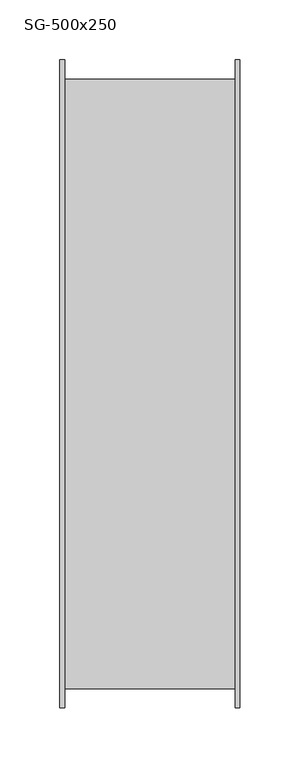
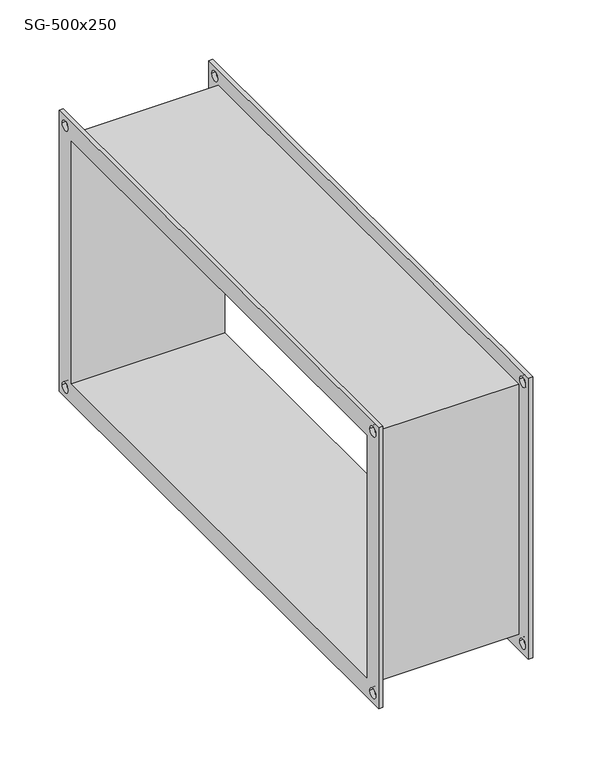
"""IFC4 building model written with IfcOpenShell, lengths in millimetres: damper geometry, СВ_ГибкаяВставка_КанальнаяПрямоугольная_200-1000_SG : SG-500x250."""

from ifc_helpers import new_model, si_unit, frame, origin, place, context, project, spatial, polyline, circle_curve, source, transform, mapped, element, save
from ifc_brep_helpers import plane_surface, revolved_surface, advanced_brep


def sg_500x250_38d528e1(model_context):
    return source(origin(), model_context, "Body", "AdvancedBrep", [
        advanced_brep(
        [(71.0, -254.0, 129.0), (-71.0, -254.0, 129.0), (-71.0, -254.0, -129.0), (71.0, -254.0, -129.0), (-71.0, 254.0, -129.0), (71.0, 254.0, -129.0), (-71.0, 254.0, 129.0), (71.0, 254.0, 129.0), (-75.0, -270.0, 145.0), (-75.0, 270.0, 145.0), (-75.0, 270.0, -145.0), (-75.0, -270.0, -145.0), (-75.0, -250.0, 125.0), (-75.0, -250.0, -125.0), (-75.0, 250.0, -125.0), (-75.0, 250.0, 125.0), (-75.0, 255.0, 135.0), (-75.0, 265.0, 135.0), (-75.0, 255.0, -135.0), (-75.0, 265.0, -135.0), (-75.0, -265.0, 135.0), (-75.0, -255.0, 135.0), (-75.0, -265.0, -135.0), (-75.0, -255.0, -135.0), (-71.0, -270.0, 145.0), (-71.0, -270.0, -145.0), (-71.0, 270.0, -145.0), (-71.0, 270.0, 145.0), (-71.0, 265.0, 135.0), (-71.0, 255.0, 135.0), (-71.0, 265.0, -135.0), (-71.0, 255.0, -135.0), (-71.0, -255.0, 135.0), (-71.0, -265.0, 135.0), (-71.0, -255.0, -135.0), (-71.0, -265.0, -135.0), (71.0, 270.0, 145.0), (71.0, 270.0, -145.0), (71.0, -270.0, -145.0), (71.0, -270.0, 145.0), (71.0, 255.0, 135.0), (71.0, 265.0, 135.0), (71.0, 255.0, -135.0), (71.0, 265.0, -135.0), (71.0, -265.0, 135.0), (71.0, -255.0, 135.0), (71.0, -265.0, -135.0), (71.0, -255.0, -135.0), (75.0, 270.0, 145.0), (75.0, -270.0, 145.0), (75.0, -270.0, -145.0), (75.0, 270.0, -145.0), (75.0, 250.0, 125.0), (75.0, 250.0, -125.0), (75.0, -250.0, -125.0), (75.0, -250.0, 125.0), (75.0, 265.0, 135.0), (75.0, 255.0, 135.0), (75.0, 265.0, -135.0), (75.0, 255.0, -135.0), (75.0, -255.0, 135.0), (75.0, -265.0, 135.0), (75.0, -255.0, -135.0), (75.0, -265.0, -135.0)],
        [
            (0, 1),
            (1, 2),
            (2, 3),
            (3, 0),
            (2, 4),
            (4, 5),
            (5, 3),
            (4, 6),
            (6, 7),
            (7, 5),
            (0, 7),
            (6, 1),
            (8, 9),
            (9, 10),
            (10, 11),
            (11, 8),
            (12, 13),
            (13, 14),
            (14, 15),
            (15, 12),
            (16, 17, circle_curve(frame((-75.0, 260.0, 135.0), z_axis=(1.0, 0.0, 0.0), x_axis=(0.0, 1.0, 0.0)), 5.0)),
            (17, 16, circle_curve(frame((-75.0, 260.0, 135.0), z_axis=(1.0, 0.0, 0.0), x_axis=(0.0, 1.0, 0.0)), 5.0)),
            (18, 19, circle_curve(frame((-75.0, 260.0, -135.0), z_axis=(1.0, 0.0, 0.0), x_axis=(0.0, 1.0, 0.0)), 5.0)),
            (19, 18, circle_curve(frame((-75.0, 260.0, -135.0), z_axis=(1.0, 0.0, 0.0), x_axis=(0.0, 1.0, 0.0)), 5.0)),
            (20, 21, circle_curve(frame((-75.0, -260.0, 135.0), z_axis=(1.0, 0.0, 0.0), x_axis=(0.0, 1.0, 0.0)), 5.0)),
            (21, 20, circle_curve(frame((-75.0, -260.0, 135.0), z_axis=(1.0, 0.0, 0.0), x_axis=(0.0, 1.0, 0.0)), 5.0)),
            (22, 23, circle_curve(frame((-75.0, -260.0, -135.0), z_axis=(1.0, 0.0, 0.0), x_axis=(0.0, 1.0, 0.0)), 5.0)),
            (23, 22, circle_curve(frame((-75.0, -260.0, -135.0), z_axis=(1.0, 0.0, 0.0), x_axis=(0.0, 1.0, 0.0)), 5.0)),
            (24, 25),
            (25, 26),
            (26, 27),
            (27, 24),
            (28, 29, circle_curve(frame((-71.0, 260.0, 135.0), z_axis=(-1.0, 0.0, 0.0), x_axis=(0.0, 1.0, 0.0)), 5.0)),
            (29, 28, circle_curve(frame((-71.0, 260.0, 135.0), z_axis=(-1.0, 0.0, 0.0), x_axis=(0.0, 1.0, 0.0)), 5.0)),
            (30, 31, circle_curve(frame((-71.0, 260.0, -135.0), z_axis=(-1.0, 0.0, 0.0), x_axis=(0.0, 1.0, 0.0)), 5.0)),
            (31, 30, circle_curve(frame((-71.0, 260.0, -135.0), z_axis=(-1.0, 0.0, 0.0), x_axis=(0.0, 1.0, 0.0)), 5.0)),
            (32, 33, circle_curve(frame((-71.0, -260.0, 135.0), z_axis=(-1.0, 0.0, 0.0), x_axis=(0.0, 1.0, 0.0)), 5.0)),
            (33, 32, circle_curve(frame((-71.0, -260.0, 135.0), z_axis=(-1.0, 0.0, 0.0), x_axis=(0.0, 1.0, 0.0)), 5.0)),
            (34, 35, circle_curve(frame((-71.0, -260.0, -135.0), z_axis=(-1.0, 0.0, 0.0), x_axis=(0.0, 1.0, 0.0)), 5.0)),
            (35, 34, circle_curve(frame((-71.0, -260.0, -135.0), z_axis=(-1.0, 0.0, 0.0), x_axis=(0.0, 1.0, 0.0)), 5.0)),
            (11, 25),
            (24, 8),
            (10, 26),
            (9, 27),
            (36, 37),
            (37, 38),
            (38, 39),
            (39, 36),
            (40, 41, circle_curve(frame((71.0, 260.0, 135.0), z_axis=(1.0, 0.0, 0.0), x_axis=(0.0, 1.0, 0.0)), 5.0)),
            (41, 40, circle_curve(frame((71.0, 260.0, 135.0), z_axis=(1.0, 0.0, 0.0), x_axis=(0.0, 1.0, 0.0)), 5.0)),
            (42, 43, circle_curve(frame((71.0, 260.0, -135.0), z_axis=(1.0, 0.0, 0.0), x_axis=(0.0, 1.0, 0.0)), 5.0)),
            (43, 42, circle_curve(frame((71.0, 260.0, -135.0), z_axis=(1.0, 0.0, 0.0), x_axis=(0.0, 1.0, 0.0)), 5.0)),
            (44, 45, circle_curve(frame((71.0, -260.0, 135.0), z_axis=(1.0, 0.0, 0.0), x_axis=(0.0, 1.0, 0.0)), 5.0)),
            (45, 44, circle_curve(frame((71.0, -260.0, 135.0), z_axis=(1.0, 0.0, 0.0), x_axis=(0.0, 1.0, 0.0)), 5.0)),
            (46, 47, circle_curve(frame((71.0, -260.0, -135.0), z_axis=(1.0, 0.0, 0.0), x_axis=(0.0, 1.0, 0.0)), 5.0)),
            (47, 46, circle_curve(frame((71.0, -260.0, -135.0), z_axis=(1.0, 0.0, 0.0), x_axis=(0.0, 1.0, 0.0)), 5.0)),
            (48, 49),
            (49, 50),
            (50, 51),
            (51, 48),
            (52, 53),
            (53, 54),
            (54, 55),
            (55, 52),
            (56, 57, circle_curve(frame((75.0, 260.0, 135.0), z_axis=(-1.0, 0.0, 0.0), x_axis=(0.0, 1.0, 0.0)), 5.0)),
            (57, 56, circle_curve(frame((75.0, 260.0, 135.0), z_axis=(-1.0, 0.0, 0.0), x_axis=(0.0, 1.0, 0.0)), 5.0)),
            (58, 59, circle_curve(frame((75.0, 260.0, -135.0), z_axis=(-1.0, 0.0, 0.0), x_axis=(0.0, 1.0, 0.0)), 5.0)),
            (59, 58, circle_curve(frame((75.0, 260.0, -135.0), z_axis=(-1.0, 0.0, 0.0), x_axis=(0.0, 1.0, 0.0)), 5.0)),
            (60, 61, circle_curve(frame((75.0, -260.0, 135.0), z_axis=(-1.0, 0.0, 0.0), x_axis=(0.0, 1.0, 0.0)), 5.0)),
            (61, 60, circle_curve(frame((75.0, -260.0, 135.0), z_axis=(-1.0, 0.0, 0.0), x_axis=(0.0, 1.0, 0.0)), 5.0)),
            (62, 63, circle_curve(frame((75.0, -260.0, -135.0), z_axis=(-1.0, 0.0, 0.0), x_axis=(0.0, 1.0, 0.0)), 5.0)),
            (63, 62, circle_curve(frame((75.0, -260.0, -135.0), z_axis=(-1.0, 0.0, 0.0), x_axis=(0.0, 1.0, 0.0)), 5.0)),
            (39, 49),
            (48, 36),
            (38, 50),
            (37, 51),
            (15, 52),
            (55, 12),
            (14, 53),
            (13, 54),
            (16, 29),
            (28, 17),
            (40, 57),
            (56, 41),
            (18, 31),
            (30, 19),
            (42, 59),
            (58, 43),
            (20, 33),
            (32, 21),
            (44, 61),
            (60, 45),
            (22, 35),
            (34, 23),
            (46, 63),
            (62, 47),
        ],
        [
            plane_surface(frame((71.0, -254.0, 129.0), z_axis=(0.0, -1.0, 0.0), x_axis=(-1.0, 0.0, 0.0))),
            plane_surface(frame((71.0, -254.0, -129.0), z_axis=(0.0, 0.0, -1.0), x_axis=(-1.0, 0.0, 0.0))),
            plane_surface(frame((71.0, 254.0, -129.0), z_axis=(0.0, 1.0, 0.0), x_axis=(-1.0, 0.0, 0.0))),
            plane_surface(frame((71.0, 254.0, 129.0), z_axis=(0.0, 0.0, 1.0), x_axis=(-1.0, 0.0, 0.0))),
            plane_surface(frame((-75.0, -270.0, 145.0), z_axis=(-1.0, 0.0, 0.0), x_axis=(0.0, 0.0, 1.0))),
            plane_surface(frame((-71.0, -270.0, 145.0), z_axis=(1.0, 0.0, 0.0), x_axis=(0.0, 0.0, -1.0))),
            plane_surface(frame((-71.0, -270.0, 145.0), z_axis=(0.0, -1.0, 0.0), x_axis=(-1.0, 0.0, 0.0))),
            plane_surface(frame((-71.0, -270.0, -145.0), z_axis=(0.0, 0.0, -1.0), x_axis=(-1.0, 0.0, 0.0))),
            plane_surface(frame((-71.0, 270.0, -145.0), z_axis=(0.0, 1.0, 0.0), x_axis=(-1.0, 0.0, 0.0))),
            plane_surface(frame((-71.0, 270.0, 145.0), z_axis=(0.0, 0.0, 1.0), x_axis=(-1.0, 0.0, 0.0))),
            plane_surface(frame((71.0, 250.0, -125.0), z_axis=(-1.0, 0.0, 0.0), x_axis=(0.0, 0.0, 1.0))),
            plane_surface(frame((75.0, 250.0, -125.0), z_axis=(1.0, 0.0, 0.0), x_axis=(0.0, 0.0, -1.0))),
            plane_surface(frame((75.0, 270.0, 145.0), z_axis=(0.0, 0.0, 1.0), x_axis=(-1.0, 0.0, 0.0))),
            plane_surface(frame((75.0, -270.0, 145.0), z_axis=(0.0, -1.0, 0.0), x_axis=(-1.0, 0.0, 0.0))),
            plane_surface(frame((75.0, -270.0, -145.0), z_axis=(0.0, 0.0, -1.0), x_axis=(-1.0, 0.0, 0.0))),
            plane_surface(frame((75.0, 270.0, -145.0), z_axis=(0.0, 1.0, 0.0), x_axis=(-1.0, 0.0, 0.0))),
            plane_surface(frame((-71.0, -250.0, 125.0), z_axis=(0.0, 0.0, -1.0), x_axis=(-1.0, 0.0, 0.0))),
            plane_surface(frame((-71.0, 250.0, 125.0), z_axis=(0.0, -1.0, 0.0), x_axis=(-1.0, 0.0, 0.0))),
            plane_surface(frame((-71.0, 250.0, -125.0), z_axis=(0.0, 0.0, 1.0), x_axis=(-1.0, 0.0, 0.0))),
            plane_surface(frame((-71.0, -250.0, -125.0), z_axis=(0.0, 1.0, 0.0), x_axis=(-1.0, 0.0, 0.0))),
            revolved_surface(polyline([(-71.0, 265.0, 135.0), (-75.0, 265.0, 135.0)]), (-75.0, 260.0, 135.0), (1.0, 0.0, 0.0)),
            revolved_surface(polyline([(75.0, 265.0, 135.0), (71.0, 265.0, 135.0)]), (-75.0, 260.0, 135.0), (1.0, 0.0, 0.0)),
            revolved_surface(polyline([(-71.0, 265.0, -135.0), (-75.0, 265.0, -135.0)]), (0.0, 260.0, -135.0), (1.0, 0.0, 0.0)),
            revolved_surface(polyline([(75.0, 265.0, -135.0), (71.0, 265.0, -135.0)]), (0.0, 260.0, -135.0), (1.0, 0.0, 0.0)),
            revolved_surface(polyline([(-71.0, -255.0, 135.0), (-75.0, -255.0, 135.0)]), (0.0, -260.0, 135.0), (1.0, 0.0, 0.0)),
            revolved_surface(polyline([(75.0, -255.0, 135.0), (71.0, -255.0, 135.0)]), (0.0, -260.0, 135.0), (1.0, 0.0, 0.0)),
            revolved_surface(polyline([(-71.0, -255.0, -135.0), (-75.0, -255.0, -135.0)]), (0.0, -260.0, -135.0), (1.0, 0.0, 0.0)),
            revolved_surface(polyline([(75.0, -255.0, -135.0), (71.0, -255.0, -135.0)]), (0.0, -260.0, -135.0), (1.0, 0.0, 0.0)),
        ],
        [
            (0, [[1, 2, 3, 4]]),
            (1, [[-3, 5, 6, 7]]),
            (2, [[-6, 8, 9, 10]]),
            (3, [[-1, 11, -9, 12]]),
            (4, [[13, 14, 15, 16], [17, 18, 19, 20], [21, 22], [23, 24], [25, 26], [27, 28]]),
            (5, [[29, 30, 31, 32], [-2, -12, -8, -5], [33, 34], [35, 36], [37, 38], [39, 40]]),
            (6, [[-16, 41, -29, 42]]),
            (7, [[-15, 43, -30, -41]]),
            (8, [[-14, 44, -31, -43]]),
            (9, [[-13, -42, -32, -44]]),
            (10, [[45, 46, 47, 48], [-4, -7, -10, -11], [49, 50], [51, 52], [53, 54], [55, 56]]),
            (11, [[57, 58, 59, 60], [61, 62, 63, 64], [65, 66], [67, 68], [69, 70], [71, 72]]),
            (12, [[-48, 73, -57, 74]]),
            (13, [[-47, 75, -58, -73]]),
            (14, [[-46, 76, -59, -75]]),
            (15, [[-45, -74, -60, -76]]),
            (16, [[-20, 77, -64, 78]]),
            (17, [[-77, -19, 79, -61]]),
            (18, [[-79, -18, 80, -62]]),
            (19, [[-80, -17, -78, -63]]),
            (20, [[81, -33, 82, -21]]),
            (21, [[83, -65, 84, -49]]),
            (20, [[-81, -22, -82, -34]]),
            (21, [[-83, -50, -84, -66]]),
            (22, [[85, -35, 86, -23]]),
            (23, [[87, -67, 88, -51]]),
            (22, [[-85, -24, -86, -36]]),
            (23, [[-87, -52, -88, -68]]),
            (24, [[89, -37, 90, -25]]),
            (25, [[91, -69, 92, -53]]),
            (24, [[-89, -26, -90, -38]]),
            (25, [[-91, -54, -92, -70]]),
            (26, [[93, -39, 94, -27]]),
            (27, [[95, -71, 96, -55]]),
            (26, [[-93, -28, -94, -40]]),
            (27, [[-95, -56, -96, -72]]),
        ],
    ),
    ])


if __name__ == "__main__":
    model = new_model("IFC4")
    model_context = context("Model", 3, world=origin())
    ifc_project = project(units=[si_unit("LENGTHUNIT", "METRE", prefix="MILLI")], contexts=[model_context])
    site = spatial("IfcSite", under=ifc_project)
    building = spatial("IfcBuilding", under=site)
    placement = place(None, origin())
    sg_500x250_shape = sg_500x250_38d528e1(model_context)
    element("IfcDamper", 1, ObjectType="СВ_ГибкаяВставка_КанальнаяПрямоугольная_200-1000_SG : SG-500x250", at=placement, inside=building, context=model_context, shape_type="MappedRepresentation", body=[
        mapped(sg_500x250_shape, transform((0.0, 0.0, 0.0), x_axis=(1.0, 0.0, 0.0), y_axis=(0.0, 1.0, 0.0), z_axis=(0.0, 0.0, 1.0))),
    ])
    save(model, "model.ifc")
